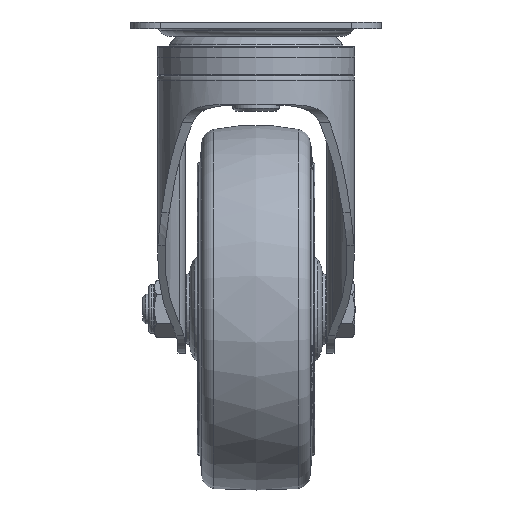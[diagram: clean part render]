
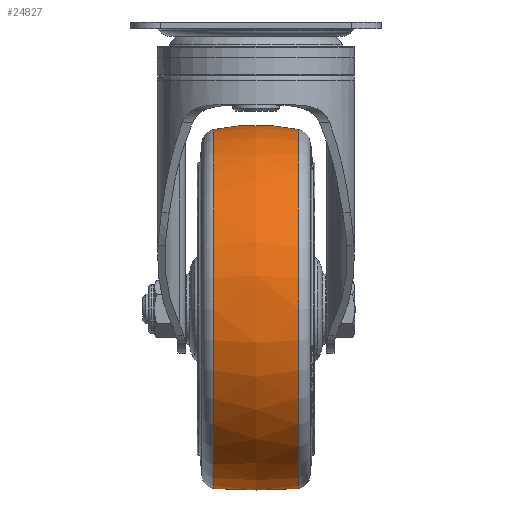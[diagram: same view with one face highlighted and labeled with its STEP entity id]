
A CAD part, left-side view. The second image highlights one B-rep face of the part: STEP entity #24827.
In plain terms, the highlighted free-form (B-spline) face has degree [2, 2] with [3, 9] control points.
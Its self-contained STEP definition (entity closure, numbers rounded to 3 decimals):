
#15=(
BOUNDED_SURFACE()
B_SPLINE_SURFACE(2,2,((#48157,#48158,#48159,#48160,#48161,#48162,#48163,
#48164,#48165),(#48166,#48167,#48168,#48169,#48170,#48171,#48172,#48173,
#48174),(#48175,#48176,#48177,#48178,#48179,#48180,#48181,#48182,#48183)),
 .UNSPECIFIED.,.F.,.T.,.F.)
B_SPLINE_SURFACE_WITH_KNOTS((3,3),(3,2,2,2,3),(-0.208,0.208),
(-3.142,-1.571,0.,1.571,3.142),
 .UNSPECIFIED.)
GEOMETRIC_REPRESENTATION_ITEM()
RATIONAL_B_SPLINE_SURFACE(((1.,0.707,1.,0.707,1.,
0.707,1.,0.707,1.),(0.978,0.692,
0.978,0.692,0.978,0.692,0.978,
0.692,0.978),(1.,0.707,1.,0.707,
1.,0.707,1.,0.707,1.)))
REPRESENTATION_ITEM('')
SURFACE()
);
#7764=FACE_OUTER_BOUND('',#9279,.T.);
#9279=EDGE_LOOP('',(#23232,#23233,#23234,#23235));
#9732=CIRCLE('',#26197,60.992);
#9733=CIRCLE('',#26198,70.);
#9734=CIRCLE('',#26199,60.992);
#12181=VERTEX_POINT('',#48184);
#12182=VERTEX_POINT('',#48186);
#15876=EDGE_CURVE('',#12181,#12181,#9732,.T.);
#15877=EDGE_CURVE('',#12181,#12182,#9733,.T.);
#15878=EDGE_CURVE('',#12182,#12182,#9734,.T.);
#23232=ORIENTED_EDGE('',*,*,#15876,.F.);
#23233=ORIENTED_EDGE('',*,*,#15877,.T.);
#23234=ORIENTED_EDGE('',*,*,#15878,.T.);
#23235=ORIENTED_EDGE('',*,*,#15877,.F.);
#24827=ADVANCED_FACE('',(#7764),#15,.F.);
#26197=AXIS2_PLACEMENT_3D('',#48185,#30607,#30608);
#26198=AXIS2_PLACEMENT_3D('',#48187,#30609,#30610);
#26199=AXIS2_PLACEMENT_3D('',#48188,#30611,#30612);
#30607=DIRECTION('center_axis',(0.,-1.,0.));
#30608=DIRECTION('ref_axis',(0.,0.,
-1.));
#30609=DIRECTION('center_axis',(-1.,0.,0.));
#30610=DIRECTION('ref_axis',(0.,0.,
1.));
#30611=DIRECTION('center_axis',(0.,-1.,0.));
#30612=DIRECTION('ref_axis',(0.,0.,
-1.));
#48157=CARTESIAN_POINT('Ctrl Pts',(32.,14.451,-35.308));
#48158=CARTESIAN_POINT('Ctrl Pts',(-28.992,14.451,-35.308));
#48159=CARTESIAN_POINT('Ctrl Pts',(-28.992,14.451,-96.3));
#48160=CARTESIAN_POINT('Ctrl Pts',(-28.992,14.451,-157.292));
#48161=CARTESIAN_POINT('Ctrl Pts',(32.,14.451,-157.292));
#48162=CARTESIAN_POINT('Ctrl Pts',(92.992,14.451,-157.292));
#48163=CARTESIAN_POINT('Ctrl Pts',(92.992,14.451,-96.3));
#48164=CARTESIAN_POINT('Ctrl Pts',(92.992,14.451,-35.308));
#48165=CARTESIAN_POINT('Ctrl Pts',(32.,14.451,-35.308));
#48166=CARTESIAN_POINT('Ctrl Pts',(32.,0.,
-32.259));
#48167=CARTESIAN_POINT('Ctrl Pts',(-32.041,0.,
-32.259));
#48168=CARTESIAN_POINT('Ctrl Pts',(-32.041,0.,
-96.3));
#48169=CARTESIAN_POINT('Ctrl Pts',(-32.041,0.,
-160.341));
#48170=CARTESIAN_POINT('Ctrl Pts',(32.,0.,
-160.341));
#48171=CARTESIAN_POINT('Ctrl Pts',(96.041,0.,
-160.341));
#48172=CARTESIAN_POINT('Ctrl Pts',(96.041,0.,
-96.3));
#48173=CARTESIAN_POINT('Ctrl Pts',(96.041,0.,
-32.259));
#48174=CARTESIAN_POINT('Ctrl Pts',(32.,0.,
-32.259));
#48175=CARTESIAN_POINT('Ctrl Pts',(32.,-14.451,-35.308));
#48176=CARTESIAN_POINT('Ctrl Pts',(-28.992,-14.451,
-35.308));
#48177=CARTESIAN_POINT('Ctrl Pts',(-28.992,-14.451,-96.3));
#48178=CARTESIAN_POINT('Ctrl Pts',(-28.992,-14.451,
-157.292));
#48179=CARTESIAN_POINT('Ctrl Pts',(32.,-14.451,-157.292));
#48180=CARTESIAN_POINT('Ctrl Pts',(92.992,-14.451,-157.292));
#48181=CARTESIAN_POINT('Ctrl Pts',(92.992,-14.451,-96.3));
#48182=CARTESIAN_POINT('Ctrl Pts',(92.992,-14.451,-35.308));
#48183=CARTESIAN_POINT('Ctrl Pts',(32.,-14.451,-35.308));
#48184=CARTESIAN_POINT('',(32.,-14.451,-35.308));
#48185=CARTESIAN_POINT('Origin',(32.,-14.451,-96.3));
#48186=CARTESIAN_POINT('',(32.,14.451,-35.308));
#48187=CARTESIAN_POINT('Origin',(32.,0.,
-103.8));
#48188=CARTESIAN_POINT('Origin',(32.,14.451,-96.3));
